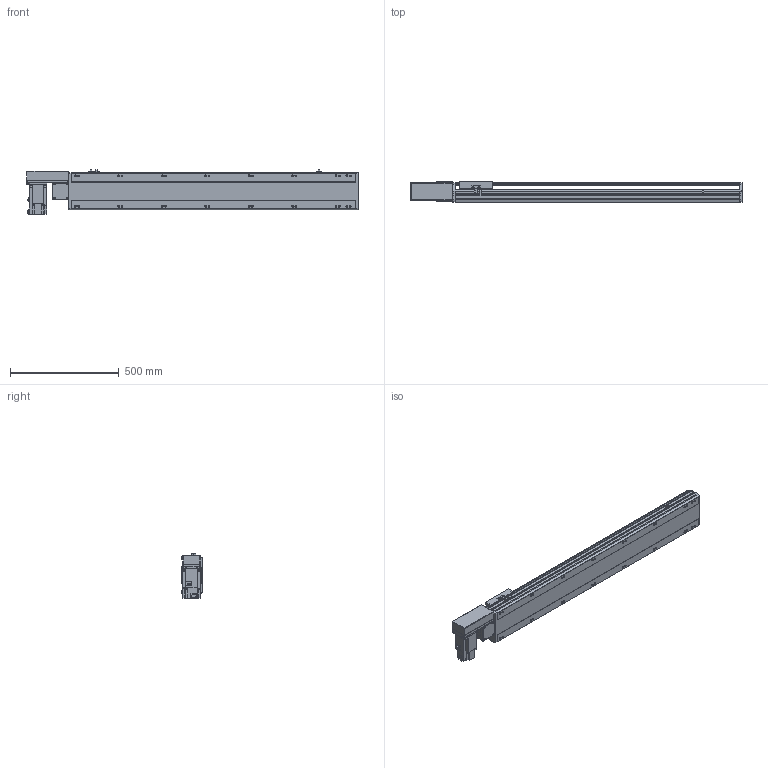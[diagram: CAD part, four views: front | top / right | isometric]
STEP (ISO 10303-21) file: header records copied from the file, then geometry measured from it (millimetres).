
FILE_DESCRIPTION(/* description */ ('STEP AP214'),/* implementation_level */ '2;1');
FILE_NAME(/* name */ 'PBS170-P40-S1050-R-T75-C1-N(0)',/* time_stamp */ '2022-06-07T09:30:02+02:00',/* author */ ('License CC BY-ND 4.0'),/* organization */ ('CADENAS'),/* preprocessor_version */ 'ST-DEVELOPER v18.102',/* originating_system */ 'PARTsolutions',/* authorisation */ ' ');
FILE_SCHEMA (('AUTOMOTIVE_DESIGN {1 0 10303 214 3 1 1}'));
Length unit declared in the file: millimetre
Products named in the file (7): PBS170-P40-S1050-R-T75-C1-N(0); PBS170_sensor; PBS170_plant; PBS170_sliser; T75-p1; PBS170T-R_motors; PBS170-S1050()_body
Assembly tree (8 placements, depth 2):
  PBS170-P40-S1050-R-T75-C1-N(0)
    PBS170_sensor  x3
    PBS170_plant
    PBS170_sliser
    T75-p1
    PBS170T-R_motors
    PBS170-S1050()_body
Bounding box: 1528 x 97 x 205.3 mm (x, y, z)
Volume: 11343946.9 mm3; surface area: 1484227.3 mm2
Topology: 8 solids, 8 shells, 1082 faces, 2875 edges, 1874 vertices
Faces by surface type: plane 687, cylinder 339, cone 46, sphere 8, torus 2
Full cylindrical faces by diameter (mm): 3.242 x4, 4 x2, 4.4 x4, 4.5 x6, 4.917 x4, 6 x9, 6.647 x24, 7 x2, 7.5 x4, 8 x8, 8.5 x16, 10 x4, 10.5 x16, 11 x2, 30 x2, 40 x1, 70 x1
Entity records: 31118 total; most frequent: CARTESIAN_POINT 5713, DIRECTION 5300, ORIENTED_EDGE 5028, EDGE_CURVE 2514, AXIS2_PLACEMENT_3D 1837, VERTEX_POINT 1730, LINE 1626, VECTOR 1626
